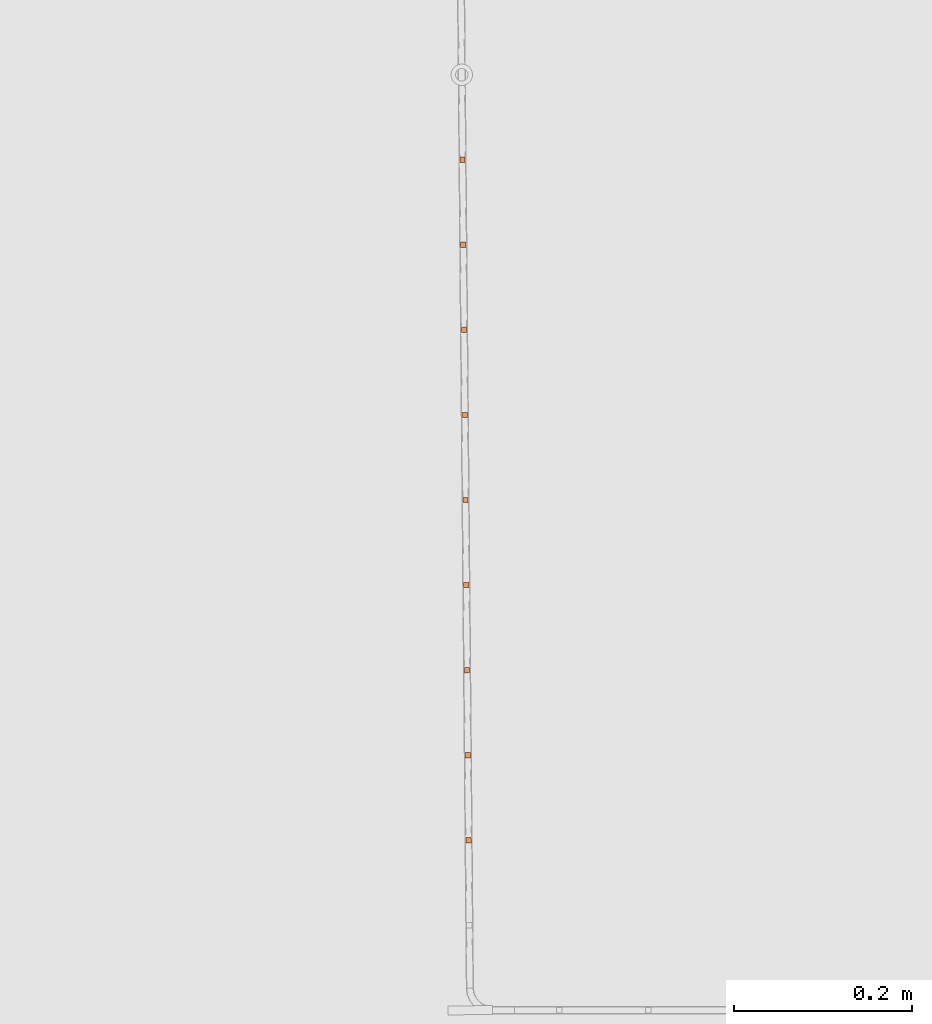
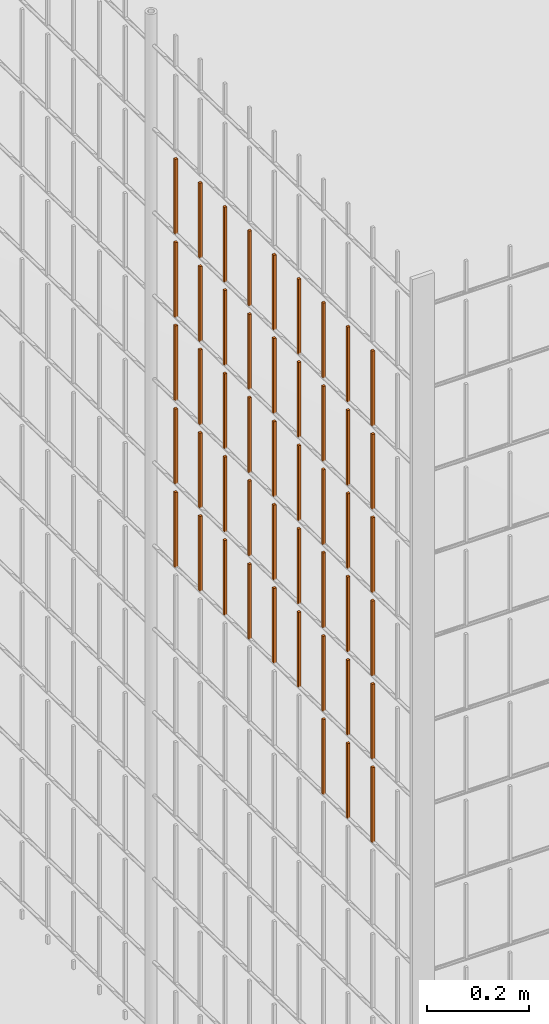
# One storey, part 243 of 1809: 48 proxies, 1 element without a shape of its own.
"""IFC2X3 building model written with IfcOpenShell, lengths in millimetres."""

from ifc_helpers import new_model, entity, si_unit, converted_unit, derived_unit, money_unit, direction, frame, origin_with_axes, place, context, subcontext, project, spatial, faceted_brep, source, transform, mapped, material, type_object, element, aggregate, save


model = new_model("IFC2X3")

# Units and contexts
model_context = context("Model", 3, precision=0.01, world=origin_with_axes(), true_north=direction((0.0, 1.0)))
body_context = subcontext(model_context, "Body", "Model", "MODEL_VIEW")
ifc_project = project(units=[si_unit("LENGTHUNIT", "METRE", prefix="MILLI"), si_unit("AREAUNIT", "SQUARE_METRE"), si_unit("VOLUMEUNIT", "CUBIC_METRE"), converted_unit("PLANEANGLEUNIT", "DEGREE", entity("IfcPlaneAngleMeasure", 0.0174532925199), si_unit("PLANEANGLEUNIT", "RADIAN"), dimensions=[0, 0, 0, 0, 0, 0, 0]), si_unit("SOLIDANGLEUNIT", "STERADIAN"), money_unit("EUR"), converted_unit("TIMEUNIT", "Year", entity("IfcTimeMeasure", 31556926.0), si_unit("TIMEUNIT", "SECOND"), dimensions=[0, 0, 1, 0, 0, 0, 0]), si_unit("MASSUNIT", "GRAM", prefix="KILO"), si_unit("THERMODYNAMICTEMPERATUREUNIT", "DEGREE_CELSIUS"), si_unit("LUMINOUSINTENSITYUNIT", "LUMEN"), si_unit("ENERGYUNIT", "JOULE", prefix="MEGA"), derived_unit("THERMALCONDUCTANCEUNIT", [(si_unit("POWERUNIT", "WATT"), 1), (si_unit("LENGTHUNIT", "METRE"), -1), (si_unit("THERMODYNAMICTEMPERATUREUNIT", "KELVIN"), -1)]), derived_unit("SPECIFICHEATCAPACITYUNIT", [(si_unit("ENERGYUNIT", "JOULE"), 1), (si_unit("MASSUNIT", "GRAM", prefix="KILO"), -1), (si_unit("THERMODYNAMICTEMPERATUREUNIT", "KELVIN"), -1)]), derived_unit("MASSDENSITYUNIT", [(si_unit("MASSUNIT", "GRAM", prefix="KILO"), 1), (si_unit("VOLUMEUNIT", "CUBIC_METRE"), -1)])], contexts=[model_context])

# Site, building, storey
site_placement = place(None, origin_with_axes())
site = spatial("IfcSite", under=ifc_project, at=site_placement, Name="Politse- ja Piirivalveameti ning Päästeameti ühishoone", CompositionType="ELEMENT")
building_placement = place(site_placement, origin_with_axes())
building = spatial("IfcBuilding", under=site, at=building_placement, Name="Politse- ja Piirivalveameti ning Päästeameti ühishoone", CompositionType="ELEMENT")
storey_placement = place(building_placement, origin_with_axes())
storey = spatial("IfcBuildingStorey", under=building, at=storey_placement, Name="Esimene korrus", CompositionType="ELEMENT", Elevation=0.0)

# Proxies
building_element_proxy_type_1 = type_object("IfcBuildingElementProxyType", Name="Railing Type", PredefinedType="NOTDEFINED")
proxy_1_placement = place(storey_placement, frame((-16775.8601056, 25156.7555964, 0.0), z_axis=(0.0, 0.0, 1.0), x_axis=(1.0, 0.0, 0.0)))
proxy_1 = element("IfcBuildingElementProxy", 1, at=proxy_1_placement, inside=storey, type_object=building_element_proxy_type_1, Name="KENNELI PIIRE")
ifc_material = material(Name="Teras - Konstruktsioon")
building_element_proxy_type_2 = type_object("IfcBuildingElementProxyType", Name="IfcBuildingElementProxy", PredefinedType="NOTDEFINED")
shared_shape_1 = source(origin_with_axes(), body_context, "Body", "Brep", [
    faceted_brep([(3.0, 3.0, 0.0), (-3.0, 3.0, 0.0), (-3.0, 3.0, 180.000012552), (3.0, 3.0, 180.000012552), (3.0, -3.0, 0.0), (-3.0, -3.0, 0.0), (-3.0, -3.0, 180.000012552), (3.0, -3.0, 180.000012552)], [[[0, 1, 2, 3]], [[0, 4, 5, 1]], [[1, 5, 6, 2]], [[3, 2, 6, 7]], [[4, 0, 3, 7]], [[5, 4, 7, 6]]]),
])
proxy_2_placement = place(proxy_1_placement, frame((-4885.66197065, -15687.117703, 1003.99998745), z_axis=(0.0, 0.0, 1.0), x_axis=(1.0, 0.0, 0.0)))
proxy_2 = element("IfcBuildingElementProxy", 2, at=proxy_2_placement, type_object=building_element_proxy_type_2, material=ifc_material, Name="BALUSTER - 001", context=body_context, shape_type="MappedRepresentation", body=[
    mapped(shared_shape_1, transform((0.0, 0.0, 0.0), x_axis=(-0.999960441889, -0.00889464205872, 0.0), y_axis=(0.00889464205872, -0.999960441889, 0.0), z_axis=(0.0, 0.0, 1.0))),
])
proxy_3_placement = place(proxy_1_placement, frame((-4884.81311565, -15782.5483472, 1003.99998745), z_axis=(0.0, 0.0, 1.0), x_axis=(1.0, 0.0, 0.0)))
proxy_3 = element("IfcBuildingElementProxy", 3, at=proxy_3_placement, type_object=building_element_proxy_type_2, material=ifc_material, Name="BALUSTER - 001", context=body_context, shape_type="MappedRepresentation", body=[
    mapped(shared_shape_1, transform((0.0, 0.0, 0.0), x_axis=(-0.999960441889, -0.00889464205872, 0.0), y_axis=(0.00889464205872, -0.999960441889, 0.0), z_axis=(0.0, 0.0, 1.0))),
])
proxy_4_placement = place(proxy_1_placement, frame((-4883.96426065, -15877.9789914, 1003.99998745), z_axis=(0.0, 0.0, 1.0), x_axis=(1.0, 0.0, 0.0)))
proxy_4 = element("IfcBuildingElementProxy", 4, at=proxy_4_placement, type_object=building_element_proxy_type_2, material=ifc_material, Name="BALUSTER - 001", context=body_context, shape_type="MappedRepresentation", body=[
    mapped(shared_shape_1, transform((0.0, 0.0, 0.0), x_axis=(-0.999960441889, -0.00889464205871, 0.0), y_axis=(0.00889464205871, -0.999960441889, 0.0), z_axis=(0.0, 0.0, 1.0))),
])
proxy_5_placement = place(proxy_1_placement, frame((-4889.90624565, -15209.9644821, 1203.99998745), z_axis=(0.0, 0.0, 1.0), x_axis=(1.0, 0.0, 0.0)))
proxy_5 = element("IfcBuildingElementProxy", 5, at=proxy_5_placement, type_object=building_element_proxy_type_2, material=ifc_material, Name="BALUSTER - 001", context=body_context, shape_type="MappedRepresentation", body=[
    mapped(shared_shape_1, transform((0.0, 0.0, 0.0), x_axis=(-0.999960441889, -0.00889464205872, 0.0), y_axis=(0.00889464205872, -0.999960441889, 0.0), z_axis=(0.0, 0.0, 1.0))),
])
shared_shape_2 = source(origin_with_axes(), body_context, "Body", "Brep", [
    faceted_brep([(3.0, 3.0, 0.0), (-3.0, 3.0, 0.0), (-3.0, 3.0, 180.000012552), (3.0, 3.0, 180.000012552), (3.0, -3.0, 0.0), (-3.0, -3.0, 0.0), (-3.0, -3.0, 180.000012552), (3.0, -3.0, 180.000012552)], [[[0, 1, 2, 3]], [[0, 4, 5, 1]], [[1, 5, 6, 2]], [[3, 2, 6, 7]], [[4, 0, 3, 7]], [[5, 4, 7, 6]]]),
])
proxy_6_placement = place(proxy_1_placement, frame((-4889.05739065, -15305.3951263, 1803.99998745), z_axis=(0.0, 0.0, 1.0), x_axis=(1.0, 0.0, 0.0)))
proxy_6 = element("IfcBuildingElementProxy", 6, at=proxy_6_placement, type_object=building_element_proxy_type_2, material=ifc_material, Name="BALUSTER - 001", context=body_context, shape_type="MappedRepresentation", body=[
    mapped(shared_shape_2, transform((0.0, 0.0, 0.0), x_axis=(-0.999960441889, -0.00889464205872, 0.0), y_axis=(0.00889464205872, -0.999960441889, 0.0), z_axis=(0.0, 0.0, 1.0))),
])
proxy_7_placement = place(proxy_1_placement, frame((-4887.35968065, -15496.2564146, 1803.99998745), z_axis=(0.0, 0.0, 1.0), x_axis=(1.0, 0.0, 0.0)))
proxy_7 = element("IfcBuildingElementProxy", 7, at=proxy_7_placement, type_object=building_element_proxy_type_2, material=ifc_material, Name="BALUSTER - 001", context=body_context, shape_type="MappedRepresentation", body=[
    mapped(shared_shape_2, transform((0.0, 0.0, 0.0), x_axis=(-0.999960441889, -0.00889464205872, 0.0), y_axis=(0.00889464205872, -0.999960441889, 0.0), z_axis=(0.0, 0.0, 1.0))),
])
proxy_8_placement = place(proxy_1_placement, frame((-4886.51082565, -15591.6870588, 1803.99998745), z_axis=(0.0, 0.0, 1.0), x_axis=(1.0, 0.0, 0.0)))
proxy_8 = element("IfcBuildingElementProxy", 8, at=proxy_8_placement, type_object=building_element_proxy_type_2, material=ifc_material, Name="BALUSTER - 001", context=body_context, shape_type="MappedRepresentation", body=[
    mapped(shared_shape_2, transform((0.0, 0.0, 0.0), x_axis=(-0.999960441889, -0.00889464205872, 0.0), y_axis=(0.00889464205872, -0.999960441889, 0.0), z_axis=(0.0, 0.0, 1.0))),
])
proxy_9_placement = place(proxy_1_placement, frame((-4885.66197065, -15687.117703, 1803.99998745), z_axis=(0.0, 0.0, 1.0), x_axis=(1.0, 0.0, 0.0)))
proxy_9 = element("IfcBuildingElementProxy", 9, at=proxy_9_placement, type_object=building_element_proxy_type_2, material=ifc_material, Name="BALUSTER - 001", context=body_context, shape_type="MappedRepresentation", body=[
    mapped(shared_shape_2, transform((0.0, 0.0, 0.0), x_axis=(-0.999960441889, -0.00889464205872, 0.0), y_axis=(0.00889464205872, -0.999960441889, 0.0), z_axis=(0.0, 0.0, 1.0))),
])
proxy_10_placement = place(proxy_1_placement, frame((-4884.81311565, -15782.5483472, 1803.99998745), z_axis=(0.0, 0.0, 1.0), x_axis=(1.0, 0.0, 0.0)))
proxy_10 = element("IfcBuildingElementProxy", 10, at=proxy_10_placement, type_object=building_element_proxy_type_2, material=ifc_material, Name="BALUSTER - 001", context=body_context, shape_type="MappedRepresentation", body=[
    mapped(shared_shape_2, transform((0.0, 0.0, 0.0), x_axis=(-0.999960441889, -0.00889464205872, 0.0), y_axis=(0.00889464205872, -0.999960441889, 0.0), z_axis=(0.0, 0.0, 1.0))),
])
proxy_11_placement = place(proxy_1_placement, frame((-4883.96426065, -15877.9789914, 1803.99998745), z_axis=(0.0, 0.0, 1.0), x_axis=(1.0, 0.0, 0.0)))
proxy_11 = element("IfcBuildingElementProxy", 11, at=proxy_11_placement, type_object=building_element_proxy_type_2, material=ifc_material, Name="BALUSTER - 001", context=body_context, shape_type="MappedRepresentation", body=[
    mapped(shared_shape_2, transform((0.0, 0.0, 0.0), x_axis=(-0.999960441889, -0.00889464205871, 0.0), y_axis=(0.00889464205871, -0.999960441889, 0.0), z_axis=(0.0, 0.0, 1.0))),
])
shared_shape_3 = source(origin_with_axes(), body_context, "Body", "Brep", [
    faceted_brep([(3.0, 3.0, 0.0), (-3.0, 3.0, 0.0), (-3.0, 3.0, 180.000012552), (3.0, 3.0, 180.000012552), (3.0, -3.0, 0.0), (-3.0, -3.0, 0.0), (-3.0, -3.0, 180.000012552), (3.0, -3.0, 180.000012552)], [[[0, 1, 2, 3]], [[0, 4, 5, 1]], [[1, 5, 6, 2]], [[3, 2, 6, 7]], [[4, 0, 3, 7]], [[5, 4, 7, 6]]]),
])
proxy_12_placement = place(proxy_1_placement, frame((-4890.75510065, -15114.5338379, 1403.99998745), z_axis=(0.0, 0.0, 1.0), x_axis=(1.0, 0.0, 0.0)))
proxy_12 = element("IfcBuildingElementProxy", 12, at=proxy_12_placement, type_object=building_element_proxy_type_2, material=ifc_material, Name="BALUSTER - 001", context=body_context, shape_type="MappedRepresentation", body=[
    mapped(shared_shape_3, transform((0.0, 0.0, 0.0), x_axis=(-0.999960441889, -0.00889464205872, 0.0), y_axis=(0.00889464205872, -0.999960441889, 0.0), z_axis=(0.0, 0.0, 1.0))),
])
proxy_13_placement = place(proxy_1_placement, frame((-4889.90624565, -15209.9644821, 1403.99998745), z_axis=(0.0, 0.0, 1.0), x_axis=(1.0, 0.0, 0.0)))
proxy_13 = element("IfcBuildingElementProxy", 13, at=proxy_13_placement, type_object=building_element_proxy_type_2, material=ifc_material, Name="BALUSTER - 001", context=body_context, shape_type="MappedRepresentation", body=[
    mapped(shared_shape_3, transform((0.0, 0.0, 0.0), x_axis=(-0.999960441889, -0.00889464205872, 0.0), y_axis=(0.00889464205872, -0.999960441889, 0.0), z_axis=(0.0, 0.0, 1.0))),
])
proxy_14_placement = place(proxy_1_placement, frame((-4889.05739065, -15305.3951263, 1403.99998745), z_axis=(0.0, 0.0, 1.0), x_axis=(1.0, 0.0, 0.0)))
proxy_14 = element("IfcBuildingElementProxy", 14, at=proxy_14_placement, type_object=building_element_proxy_type_2, material=ifc_material, Name="BALUSTER - 001", context=body_context, shape_type="MappedRepresentation", body=[
    mapped(shared_shape_3, transform((0.0, 0.0, 0.0), x_axis=(-0.999960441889, -0.00889464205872, 0.0), y_axis=(0.00889464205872, -0.999960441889, 0.0), z_axis=(0.0, 0.0, 1.0))),
])
proxy_15_placement = place(proxy_1_placement, frame((-4888.20853565, -15400.8257705, 1403.99998745), z_axis=(0.0, 0.0, 1.0), x_axis=(1.0, 0.0, 0.0)))
proxy_15 = element("IfcBuildingElementProxy", 15, at=proxy_15_placement, type_object=building_element_proxy_type_2, material=ifc_material, Name="BALUSTER - 001", context=body_context, shape_type="MappedRepresentation", body=[
    mapped(shared_shape_3, transform((0.0, 0.0, 0.0), x_axis=(-0.999960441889, -0.00889464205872, 0.0), y_axis=(0.00889464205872, -0.999960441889, 0.0), z_axis=(0.0, 0.0, 1.0))),
])
proxy_16_placement = place(proxy_1_placement, frame((-4887.35968065, -15496.2564146, 1403.99998745), z_axis=(0.0, 0.0, 1.0), x_axis=(1.0, 0.0, 0.0)))
proxy_16 = element("IfcBuildingElementProxy", 16, at=proxy_16_placement, type_object=building_element_proxy_type_2, material=ifc_material, Name="BALUSTER - 001", context=body_context, shape_type="MappedRepresentation", body=[
    mapped(shared_shape_3, transform((0.0, 0.0, 0.0), x_axis=(-0.999960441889, -0.00889464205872, 0.0), y_axis=(0.00889464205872, -0.999960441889, 0.0), z_axis=(0.0, 0.0, 1.0))),
])
proxy_17_placement = place(proxy_1_placement, frame((-4886.51082565, -15591.6870588, 1403.99998745), z_axis=(0.0, 0.0, 1.0), x_axis=(1.0, 0.0, 0.0)))
proxy_17 = element("IfcBuildingElementProxy", 17, at=proxy_17_placement, type_object=building_element_proxy_type_2, material=ifc_material, Name="BALUSTER - 001", context=body_context, shape_type="MappedRepresentation", body=[
    mapped(shared_shape_3, transform((0.0, 0.0, 0.0), x_axis=(-0.999960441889, -0.00889464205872, 0.0), y_axis=(0.00889464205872, -0.999960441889, 0.0), z_axis=(0.0, 0.0, 1.0))),
])
proxy_18_placement = place(proxy_1_placement, frame((-4885.66197065, -15687.117703, 1403.99998745), z_axis=(0.0, 0.0, 1.0), x_axis=(1.0, 0.0, 0.0)))
proxy_18 = element("IfcBuildingElementProxy", 18, at=proxy_18_placement, type_object=building_element_proxy_type_2, material=ifc_material, Name="BALUSTER - 001", context=body_context, shape_type="MappedRepresentation", body=[
    mapped(shared_shape_3, transform((0.0, 0.0, 0.0), x_axis=(-0.999960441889, -0.00889464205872, 0.0), y_axis=(0.00889464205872, -0.999960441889, 0.0), z_axis=(0.0, 0.0, 1.0))),
])
proxy_19_placement = place(proxy_1_placement, frame((-4884.81311565, -15782.5483472, 1403.99998745), z_axis=(0.0, 0.0, 1.0), x_axis=(1.0, 0.0, 0.0)))
proxy_19 = element("IfcBuildingElementProxy", 19, at=proxy_19_placement, type_object=building_element_proxy_type_2, material=ifc_material, Name="BALUSTER - 001", context=body_context, shape_type="MappedRepresentation", body=[
    mapped(shared_shape_3, transform((0.0, 0.0, 0.0), x_axis=(-0.999960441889, -0.00889464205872, 0.0), y_axis=(0.00889464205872, -0.999960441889, 0.0), z_axis=(0.0, 0.0, 1.0))),
])
proxy_20_placement = place(proxy_1_placement, frame((-4883.96426065, -15877.9789914, 1403.99998745), z_axis=(0.0, 0.0, 1.0), x_axis=(1.0, 0.0, 0.0)))
proxy_20 = element("IfcBuildingElementProxy", 20, at=proxy_20_placement, type_object=building_element_proxy_type_2, material=ifc_material, Name="BALUSTER - 001", context=body_context, shape_type="MappedRepresentation", body=[
    mapped(shared_shape_3, transform((0.0, 0.0, 0.0), x_axis=(-0.999960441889, -0.00889464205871, 0.0), y_axis=(0.00889464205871, -0.999960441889, 0.0), z_axis=(0.0, 0.0, 1.0))),
])
shared_shape_4 = source(origin_with_axes(), body_context, "Body", "Brep", [
    faceted_brep([(3.0, 3.0, 0.0), (-3.0, 3.0, 0.0), (-3.0, 3.0, 180.000012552), (3.0, 3.0, 180.000012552), (3.0, -3.0, 0.0), (-3.0, -3.0, 0.0), (-3.0, -3.0, 180.000012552), (3.0, -3.0, 180.000012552)], [[[0, 1, 2, 3]], [[0, 4, 5, 1]], [[1, 5, 6, 2]], [[3, 2, 6, 7]], [[4, 0, 3, 7]], [[5, 4, 7, 6]]]),
])
proxy_21_placement = place(proxy_1_placement, frame((-4890.75510065, -15114.5338379, 2003.99998745), z_axis=(0.0, 0.0, 1.0), x_axis=(1.0, 0.0, 0.0)))
proxy_21 = element("IfcBuildingElementProxy", 21, at=proxy_21_placement, type_object=building_element_proxy_type_2, material=ifc_material, Name="BALUSTER - 001", context=body_context, shape_type="MappedRepresentation", body=[
    mapped(shared_shape_4, transform((0.0, 0.0, 0.0), x_axis=(-0.999960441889, -0.00889464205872, 0.0), y_axis=(0.00889464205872, -0.999960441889, 0.0), z_axis=(0.0, 0.0, 1.0))),
])
proxy_22_placement = place(proxy_1_placement, frame((-4889.90624565, -15209.9644821, 2003.99998745), z_axis=(0.0, 0.0, 1.0), x_axis=(1.0, 0.0, 0.0)))
proxy_22 = element("IfcBuildingElementProxy", 22, at=proxy_22_placement, type_object=building_element_proxy_type_2, material=ifc_material, Name="BALUSTER - 001", context=body_context, shape_type="MappedRepresentation", body=[
    mapped(shared_shape_4, transform((0.0, 0.0, 0.0), x_axis=(-0.999960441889, -0.00889464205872, 0.0), y_axis=(0.00889464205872, -0.999960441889, 0.0), z_axis=(0.0, 0.0, 1.0))),
])
proxy_23_placement = place(proxy_1_placement, frame((-4889.05739065, -15305.3951263, 2003.99998745), z_axis=(0.0, 0.0, 1.0), x_axis=(1.0, 0.0, 0.0)))
proxy_23 = element("IfcBuildingElementProxy", 23, at=proxy_23_placement, type_object=building_element_proxy_type_2, material=ifc_material, Name="BALUSTER - 001", context=body_context, shape_type="MappedRepresentation", body=[
    mapped(shared_shape_4, transform((0.0, 0.0, 0.0), x_axis=(-0.999960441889, -0.00889464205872, 0.0), y_axis=(0.00889464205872, -0.999960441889, 0.0), z_axis=(0.0, 0.0, 1.0))),
])
proxy_24_placement = place(proxy_1_placement, frame((-4888.20853565, -15400.8257705, 2003.99998745), z_axis=(0.0, 0.0, 1.0), x_axis=(1.0, 0.0, 0.0)))
proxy_24 = element("IfcBuildingElementProxy", 24, at=proxy_24_placement, type_object=building_element_proxy_type_2, material=ifc_material, Name="BALUSTER - 001", context=body_context, shape_type="MappedRepresentation", body=[
    mapped(shared_shape_4, transform((0.0, 0.0, 0.0), x_axis=(-0.999960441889, -0.00889464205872, 0.0), y_axis=(0.00889464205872, -0.999960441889, 0.0), z_axis=(0.0, 0.0, 1.0))),
])
proxy_25_placement = place(proxy_1_placement, frame((-4887.35968065, -15496.2564146, 2003.99998745), z_axis=(0.0, 0.0, 1.0), x_axis=(1.0, 0.0, 0.0)))
proxy_25 = element("IfcBuildingElementProxy", 25, at=proxy_25_placement, type_object=building_element_proxy_type_2, material=ifc_material, Name="BALUSTER - 001", context=body_context, shape_type="MappedRepresentation", body=[
    mapped(shared_shape_4, transform((0.0, 0.0, 0.0), x_axis=(-0.999960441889, -0.00889464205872, 0.0), y_axis=(0.00889464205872, -0.999960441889, 0.0), z_axis=(0.0, 0.0, 1.0))),
])
proxy_26_placement = place(proxy_1_placement, frame((-4886.51082565, -15591.6870588, 2003.99998745), z_axis=(0.0, 0.0, 1.0), x_axis=(1.0, 0.0, 0.0)))
proxy_26 = element("IfcBuildingElementProxy", 26, at=proxy_26_placement, type_object=building_element_proxy_type_2, material=ifc_material, Name="BALUSTER - 001", context=body_context, shape_type="MappedRepresentation", body=[
    mapped(shared_shape_4, transform((0.0, 0.0, 0.0), x_axis=(-0.999960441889, -0.00889464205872, 0.0), y_axis=(0.00889464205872, -0.999960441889, 0.0), z_axis=(0.0, 0.0, 1.0))),
])
proxy_27_placement = place(proxy_1_placement, frame((-4885.66197065, -15687.117703, 2003.99998745), z_axis=(0.0, 0.0, 1.0), x_axis=(1.0, 0.0, 0.0)))
proxy_27 = element("IfcBuildingElementProxy", 27, at=proxy_27_placement, type_object=building_element_proxy_type_2, material=ifc_material, Name="BALUSTER - 001", context=body_context, shape_type="MappedRepresentation", body=[
    mapped(shared_shape_4, transform((0.0, 0.0, 0.0), x_axis=(-0.999960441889, -0.00889464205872, 0.0), y_axis=(0.00889464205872, -0.999960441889, 0.0), z_axis=(0.0, 0.0, 1.0))),
])
proxy_28_placement = place(proxy_1_placement, frame((-4884.81311565, -15782.5483472, 2003.99998745), z_axis=(0.0, 0.0, 1.0), x_axis=(1.0, 0.0, 0.0)))
proxy_28 = element("IfcBuildingElementProxy", 28, at=proxy_28_placement, type_object=building_element_proxy_type_2, material=ifc_material, Name="BALUSTER - 001", context=body_context, shape_type="MappedRepresentation", body=[
    mapped(shared_shape_4, transform((0.0, 0.0, 0.0), x_axis=(-0.999960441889, -0.00889464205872, 0.0), y_axis=(0.00889464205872, -0.999960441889, 0.0), z_axis=(0.0, 0.0, 1.0))),
])
proxy_29_placement = place(proxy_1_placement, frame((-4883.96426065, -15877.9789914, 2003.99998745), z_axis=(0.0, 0.0, 1.0), x_axis=(1.0, 0.0, 0.0)))
proxy_29 = element("IfcBuildingElementProxy", 29, at=proxy_29_placement, type_object=building_element_proxy_type_2, material=ifc_material, Name="BALUSTER - 001", context=body_context, shape_type="MappedRepresentation", body=[
    mapped(shared_shape_4, transform((0.0, 0.0, 0.0), x_axis=(-0.999960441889, -0.00889464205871, 0.0), y_axis=(0.00889464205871, -0.999960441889, 0.0), z_axis=(0.0, 0.0, 1.0))),
])
shared_shape_5 = source(origin_with_axes(), body_context, "Body", "Brep", [
    faceted_brep([(3.0, 3.0, 0.0), (-3.0, 3.0, 0.0), (-3.0, 3.0, 180.000012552), (3.0, 3.0, 180.000012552), (3.0, -3.0, 0.0), (-3.0, -3.0, 0.0), (-3.0, -3.0, 180.000012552), (3.0, -3.0, 180.000012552)], [[[0, 1, 2, 3]], [[0, 4, 5, 1]], [[1, 5, 6, 2]], [[3, 2, 6, 7]], [[4, 0, 3, 7]], [[5, 4, 7, 6]]]),
])
proxy_30_placement = place(proxy_1_placement, frame((-4890.75510065, -15114.5338379, 1203.99998745), z_axis=(0.0, 0.0, 1.0), x_axis=(1.0, 0.0, 0.0)))
proxy_30 = element("IfcBuildingElementProxy", 30, at=proxy_30_placement, type_object=building_element_proxy_type_2, material=ifc_material, Name="BALUSTER - 001", context=body_context, shape_type="MappedRepresentation", body=[
    mapped(shared_shape_5, transform((0.0, 0.0, 0.0), x_axis=(-0.999960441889, -0.00889464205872, 0.0), y_axis=(0.00889464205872, -0.999960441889, 0.0), z_axis=(0.0, 0.0, 1.0))),
])
proxy_31_placement = place(proxy_1_placement, frame((-4889.05739065, -15305.3951263, 1203.99998745), z_axis=(0.0, 0.0, 1.0), x_axis=(1.0, 0.0, 0.0)))
proxy_31 = element("IfcBuildingElementProxy", 31, at=proxy_31_placement, type_object=building_element_proxy_type_2, material=ifc_material, Name="BALUSTER - 001", context=body_context, shape_type="MappedRepresentation", body=[
    mapped(shared_shape_5, transform((0.0, 0.0, 0.0), x_axis=(-0.999960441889, -0.00889464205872, 0.0), y_axis=(0.00889464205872, -0.999960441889, 0.0), z_axis=(0.0, 0.0, 1.0))),
])
proxy_32_placement = place(proxy_1_placement, frame((-4888.20853565, -15400.8257705, 1203.99998745), z_axis=(0.0, 0.0, 1.0), x_axis=(1.0, 0.0, 0.0)))
proxy_32 = element("IfcBuildingElementProxy", 32, at=proxy_32_placement, type_object=building_element_proxy_type_2, material=ifc_material, Name="BALUSTER - 001", context=body_context, shape_type="MappedRepresentation", body=[
    mapped(shared_shape_5, transform((0.0, 0.0, 0.0), x_axis=(-0.999960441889, -0.00889464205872, 0.0), y_axis=(0.00889464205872, -0.999960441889, 0.0), z_axis=(0.0, 0.0, 1.0))),
])
proxy_33_placement = place(proxy_1_placement, frame((-4887.35968065, -15496.2564146, 1203.99998745), z_axis=(0.0, 0.0, 1.0), x_axis=(1.0, 0.0, 0.0)))
proxy_33 = element("IfcBuildingElementProxy", 33, at=proxy_33_placement, type_object=building_element_proxy_type_2, material=ifc_material, Name="BALUSTER - 001", context=body_context, shape_type="MappedRepresentation", body=[
    mapped(shared_shape_5, transform((0.0, 0.0, 0.0), x_axis=(-0.999960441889, -0.00889464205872, 0.0), y_axis=(0.00889464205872, -0.999960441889, 0.0), z_axis=(0.0, 0.0, 1.0))),
])
proxy_34_placement = place(proxy_1_placement, frame((-4886.51082565, -15591.6870588, 1203.99998745), z_axis=(0.0, 0.0, 1.0), x_axis=(1.0, 0.0, 0.0)))
proxy_34 = element("IfcBuildingElementProxy", 34, at=proxy_34_placement, type_object=building_element_proxy_type_2, material=ifc_material, Name="BALUSTER - 001", context=body_context, shape_type="MappedRepresentation", body=[
    mapped(shared_shape_5, transform((0.0, 0.0, 0.0), x_axis=(-0.999960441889, -0.00889464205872, 0.0), y_axis=(0.00889464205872, -0.999960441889, 0.0), z_axis=(0.0, 0.0, 1.0))),
])
proxy_35_placement = place(proxy_1_placement, frame((-4885.66197065, -15687.117703, 1203.99998745), z_axis=(0.0, 0.0, 1.0), x_axis=(1.0, 0.0, 0.0)))
proxy_35 = element("IfcBuildingElementProxy", 35, at=proxy_35_placement, type_object=building_element_proxy_type_2, material=ifc_material, Name="BALUSTER - 001", context=body_context, shape_type="MappedRepresentation", body=[
    mapped(shared_shape_5, transform((0.0, 0.0, 0.0), x_axis=(-0.999960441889, -0.00889464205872, 0.0), y_axis=(0.00889464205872, -0.999960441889, 0.0), z_axis=(0.0, 0.0, 1.0))),
])
proxy_36_placement = place(proxy_1_placement, frame((-4884.81311565, -15782.5483472, 1203.99998745), z_axis=(0.0, 0.0, 1.0), x_axis=(1.0, 0.0, 0.0)))
proxy_36 = element("IfcBuildingElementProxy", 36, at=proxy_36_placement, type_object=building_element_proxy_type_2, material=ifc_material, Name="BALUSTER - 001", context=body_context, shape_type="MappedRepresentation", body=[
    mapped(shared_shape_5, transform((0.0, 0.0, 0.0), x_axis=(-0.999960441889, -0.00889464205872, 0.0), y_axis=(0.00889464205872, -0.999960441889, 0.0), z_axis=(0.0, 0.0, 1.0))),
])
proxy_37_placement = place(proxy_1_placement, frame((-4883.96426065, -15877.9789914, 1203.99998745), z_axis=(0.0, 0.0, 1.0), x_axis=(1.0, 0.0, 0.0)))
proxy_37 = element("IfcBuildingElementProxy", 37, at=proxy_37_placement, type_object=building_element_proxy_type_2, material=ifc_material, Name="BALUSTER - 001", context=body_context, shape_type="MappedRepresentation", body=[
    mapped(shared_shape_5, transform((0.0, 0.0, 0.0), x_axis=(-0.999960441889, -0.00889464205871, 0.0), y_axis=(0.00889464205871, -0.999960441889, 0.0), z_axis=(0.0, 0.0, 1.0))),
])
shared_shape_6 = source(origin_with_axes(), body_context, "Body", "Brep", [
    faceted_brep([(3.0, 3.0, 0.0), (-3.0, 3.0, 0.0), (-3.0, 3.0, 180.000012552), (3.0, 3.0, 180.000012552), (3.0, -3.0, 0.0), (-3.0, -3.0, 0.0), (-3.0, -3.0, 180.000012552), (3.0, -3.0, 180.000012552)], [[[0, 1, 2, 3]], [[0, 4, 5, 1]], [[1, 5, 6, 2]], [[3, 2, 6, 7]], [[4, 0, 3, 7]], [[5, 4, 7, 6]]]),
])
proxy_38_placement = place(proxy_1_placement, frame((-4890.75510065, -15114.5338379, 1603.99998745), z_axis=(0.0, 0.0, 1.0), x_axis=(1.0, 0.0, 0.0)))
proxy_38 = element("IfcBuildingElementProxy", 38, at=proxy_38_placement, type_object=building_element_proxy_type_2, material=ifc_material, Name="BALUSTER - 001", context=body_context, shape_type="MappedRepresentation", body=[
    mapped(shared_shape_6, transform((0.0, 0.0, 0.0), x_axis=(-0.999960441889, -0.00889464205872, 0.0), y_axis=(0.00889464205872, -0.999960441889, 0.0), z_axis=(0.0, 0.0, 1.0))),
])
proxy_39_placement = place(proxy_1_placement, frame((-4889.90624565, -15209.9644821, 1603.99998745), z_axis=(0.0, 0.0, 1.0), x_axis=(1.0, 0.0, 0.0)))
proxy_39 = element("IfcBuildingElementProxy", 39, at=proxy_39_placement, type_object=building_element_proxy_type_2, material=ifc_material, Name="BALUSTER - 001", context=body_context, shape_type="MappedRepresentation", body=[
    mapped(shared_shape_6, transform((0.0, 0.0, 0.0), x_axis=(-0.999960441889, -0.00889464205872, 0.0), y_axis=(0.00889464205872, -0.999960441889, 0.0), z_axis=(0.0, 0.0, 1.0))),
])
proxy_40_placement = place(proxy_1_placement, frame((-4889.05739065, -15305.3951263, 1603.99998745), z_axis=(0.0, 0.0, 1.0), x_axis=(1.0, 0.0, 0.0)))
proxy_40 = element("IfcBuildingElementProxy", 40, at=proxy_40_placement, type_object=building_element_proxy_type_2, material=ifc_material, Name="BALUSTER - 001", context=body_context, shape_type="MappedRepresentation", body=[
    mapped(shared_shape_6, transform((0.0, 0.0, 0.0), x_axis=(-0.999960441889, -0.00889464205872, 0.0), y_axis=(0.00889464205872, -0.999960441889, 0.0), z_axis=(0.0, 0.0, 1.0))),
])
proxy_41_placement = place(proxy_1_placement, frame((-4888.20853565, -15400.8257705, 1603.99998745), z_axis=(0.0, 0.0, 1.0), x_axis=(1.0, 0.0, 0.0)))
proxy_41 = element("IfcBuildingElementProxy", 41, at=proxy_41_placement, type_object=building_element_proxy_type_2, material=ifc_material, Name="BALUSTER - 001", context=body_context, shape_type="MappedRepresentation", body=[
    mapped(shared_shape_6, transform((0.0, 0.0, 0.0), x_axis=(-0.999960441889, -0.00889464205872, 0.0), y_axis=(0.00889464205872, -0.999960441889, 0.0), z_axis=(0.0, 0.0, 1.0))),
])
proxy_42_placement = place(proxy_1_placement, frame((-4887.35968065, -15496.2564146, 1603.99998745), z_axis=(0.0, 0.0, 1.0), x_axis=(1.0, 0.0, 0.0)))
proxy_42 = element("IfcBuildingElementProxy", 42, at=proxy_42_placement, type_object=building_element_proxy_type_2, material=ifc_material, Name="BALUSTER - 001", context=body_context, shape_type="MappedRepresentation", body=[
    mapped(shared_shape_6, transform((0.0, 0.0, 0.0), x_axis=(-0.999960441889, -0.00889464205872, 0.0), y_axis=(0.00889464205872, -0.999960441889, 0.0), z_axis=(0.0, 0.0, 1.0))),
])
proxy_43_placement = place(proxy_1_placement, frame((-4886.51082565, -15591.6870588, 1603.99998745), z_axis=(0.0, 0.0, 1.0), x_axis=(1.0, 0.0, 0.0)))
proxy_43 = element("IfcBuildingElementProxy", 43, at=proxy_43_placement, type_object=building_element_proxy_type_2, material=ifc_material, Name="BALUSTER - 001", context=body_context, shape_type="MappedRepresentation", body=[
    mapped(shared_shape_6, transform((0.0, 0.0, 0.0), x_axis=(-0.999960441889, -0.00889464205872, 0.0), y_axis=(0.00889464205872, -0.999960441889, 0.0), z_axis=(0.0, 0.0, 1.0))),
])
proxy_44_placement = place(proxy_1_placement, frame((-4885.66197065, -15687.117703, 1603.99998745), z_axis=(0.0, 0.0, 1.0), x_axis=(1.0, 0.0, 0.0)))
proxy_44 = element("IfcBuildingElementProxy", 44, at=proxy_44_placement, type_object=building_element_proxy_type_2, material=ifc_material, Name="BALUSTER - 001", context=body_context, shape_type="MappedRepresentation", body=[
    mapped(shared_shape_6, transform((0.0, 0.0, 0.0), x_axis=(-0.999960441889, -0.00889464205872, 0.0), y_axis=(0.00889464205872, -0.999960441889, 0.0), z_axis=(0.0, 0.0, 1.0))),
])
proxy_45_placement = place(proxy_1_placement, frame((-4884.81311565, -15782.5483472, 1603.99998745), z_axis=(0.0, 0.0, 1.0), x_axis=(1.0, 0.0, 0.0)))
proxy_45 = element("IfcBuildingElementProxy", 45, at=proxy_45_placement, type_object=building_element_proxy_type_2, material=ifc_material, Name="BALUSTER - 001", context=body_context, shape_type="MappedRepresentation", body=[
    mapped(shared_shape_6, transform((0.0, 0.0, 0.0), x_axis=(-0.999960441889, -0.00889464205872, 0.0), y_axis=(0.00889464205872, -0.999960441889, 0.0), z_axis=(0.0, 0.0, 1.0))),
])
proxy_46_placement = place(proxy_1_placement, frame((-4883.96426065, -15877.9789914, 1603.99998745), z_axis=(0.0, 0.0, 1.0), x_axis=(1.0, 0.0, 0.0)))
proxy_46 = element("IfcBuildingElementProxy", 46, at=proxy_46_placement, type_object=building_element_proxy_type_2, material=ifc_material, Name="BALUSTER - 001", context=body_context, shape_type="MappedRepresentation", body=[
    mapped(shared_shape_6, transform((0.0, 0.0, 0.0), x_axis=(-0.999960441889, -0.00889464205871, 0.0), y_axis=(0.00889464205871, -0.999960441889, 0.0), z_axis=(0.0, 0.0, 1.0))),
])
shared_shape_7 = source(origin_with_axes(), body_context, "Body", "Brep", [
    faceted_brep([(3.0, 3.0, 0.0), (-3.0, 3.0, 0.0), (-3.0, 3.0, 180.000012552), (3.0, 3.0, 180.000012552), (3.0, -3.0, 0.0), (-3.0, -3.0, 0.0), (-3.0, -3.0, 180.000012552), (3.0, -3.0, 180.000012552)], [[[0, 1, 2, 3]], [[0, 4, 5, 1]], [[1, 5, 6, 2]], [[3, 2, 6, 7]], [[4, 0, 3, 7]], [[5, 4, 7, 6]]]),
])
proxy_47_placement = place(proxy_1_placement, frame((-4889.90624565, -15209.9644821, 1803.99998745), z_axis=(0.0, 0.0, 1.0), x_axis=(1.0, 0.0, 0.0)))
proxy_47 = element("IfcBuildingElementProxy", 47, at=proxy_47_placement, type_object=building_element_proxy_type_2, material=ifc_material, Name="BALUSTER - 001", context=body_context, shape_type="MappedRepresentation", body=[
    mapped(shared_shape_7, transform((0.0, 0.0, 0.0), x_axis=(-0.999960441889, -0.00889464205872, 0.0), y_axis=(0.00889464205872, -0.999960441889, 0.0), z_axis=(0.0, 0.0, 1.0))),
])
shared_shape_8 = source(origin_with_axes(), body_context, "Body", "Brep", [
    faceted_brep([(3.0, 3.0, 0.0), (-3.0, 3.0, 0.0), (-3.0, 3.0, 180.000012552), (3.0, 3.0, 180.000012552), (3.0, -3.0, 0.0), (-3.0, -3.0, 0.0), (-3.0, -3.0, 180.000012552), (3.0, -3.0, 180.000012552)], [[[0, 1, 2, 3]], [[0, 4, 5, 1]], [[1, 5, 6, 2]], [[3, 2, 6, 7]], [[4, 0, 3, 7]], [[5, 4, 7, 6]]]),
])
proxy_48_placement = place(proxy_1_placement, frame((-4890.75510065, -15114.5338379, 1803.99998745), z_axis=(0.0, 0.0, 1.0), x_axis=(1.0, 0.0, 0.0)))
proxy_48 = element("IfcBuildingElementProxy", 48, at=proxy_48_placement, type_object=building_element_proxy_type_2, material=ifc_material, Name="BALUSTER - 001", context=body_context, shape_type="MappedRepresentation", body=[
    mapped(shared_shape_8, transform((0.0, 0.0, 0.0), x_axis=(-0.999960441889, -0.00889464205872, 0.0), y_axis=(0.00889464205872, -0.999960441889, 0.0), z_axis=(0.0, 0.0, 1.0))),
])
proxy_49_placement = place(proxy_1_placement, frame((-4888.20853565, -15400.8257705, 1803.99998745), z_axis=(0.0, 0.0, 1.0), x_axis=(1.0, 0.0, 0.0)))
proxy_49 = element("IfcBuildingElementProxy", 49, at=proxy_49_placement, type_object=building_element_proxy_type_2, material=ifc_material, Name="BALUSTER - 001", context=body_context, shape_type="MappedRepresentation", body=[
    mapped(shared_shape_8, transform((0.0, 0.0, 0.0), x_axis=(-0.999960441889, -0.00889464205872, 0.0), y_axis=(0.00889464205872, -0.999960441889, 0.0), z_axis=(0.0, 0.0, 1.0))),
])
aggregate(proxy_1, [proxy_2, proxy_3, proxy_4, proxy_30, proxy_5, proxy_31, proxy_32, proxy_33, proxy_34, proxy_35, proxy_36, proxy_37, proxy_12, proxy_13, proxy_14, proxy_15, proxy_16, proxy_17, proxy_18, proxy_19, proxy_20, proxy_38, proxy_39, proxy_40, proxy_41, proxy_42, proxy_43, proxy_44, proxy_45, proxy_46, proxy_48, proxy_47, proxy_6, proxy_49, proxy_7, proxy_8, proxy_9, proxy_10, proxy_11, proxy_21, proxy_22, proxy_23, proxy_24, proxy_25, proxy_26, proxy_27, proxy_28, proxy_29])

save(model, "model.ifc")
